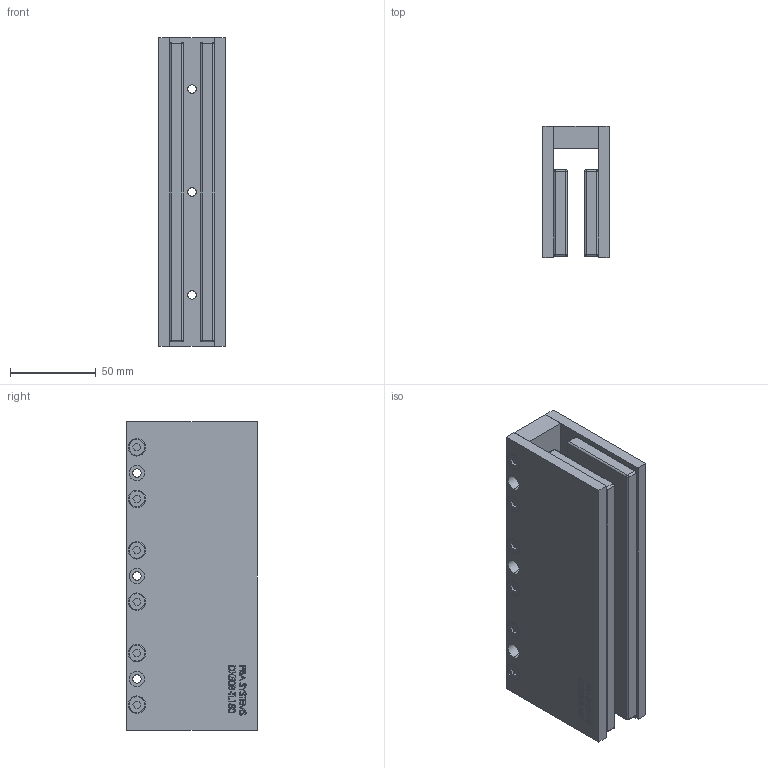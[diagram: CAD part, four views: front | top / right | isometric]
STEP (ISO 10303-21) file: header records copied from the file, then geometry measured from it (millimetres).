
FILE_DESCRIPTION (( 'STEP AP214' ), '1' );
FILE_NAME ('DX50B-TL180.STEP', '2016-05-11T09:31:25', ( '' ), ( '' ), 'SwSTEP 2.0', 'SolidWorks 2015', '' );
FILE_SCHEMA (( 'AUTOMOTIVE_DESIGN' ));
Length unit declared in the file: millimetre
Products named in the file (5): DX50B-0000-001_CUSTOMER_TL180; M6X12 DIN7984 STAINLESS STEEL; DX50B-TL180-002_TL180; DX50B-TL180-001_TL180; DX50B-TL180
Assembly tree (17 placements, depth 2):
  DX50B-TL180
    DX50B-TL180-001_TL180
    DX50B-TL180-002_TL180  x2
    M6X12 DIN7984 STAINLESS STEEL  x12
    DX50B-0000-001_CUSTOMER_TL180  x2
Bounding box: 38.7 x 76.2 x 179.5 mm (x, y, z)
Volume: 368498.6 mm3; surface area: 128779.7 mm2
Topology: 17 solids, 17 shells, 962 faces, 2392 edges, 1542 vertices
Faces by surface type: plane 492, bspline 238, cylinder 168, cone 24, torus 24, sphere 16
Entity records: 19552 total; most frequent: CARTESIAN_POINT 9513, ORIENTED_EDGE 2104, DIRECTION 1574, EDGE_CURVE 1052, VERTEX_POINT 682, VECTOR 656, LINE 656, EDGE_LOOP 494
